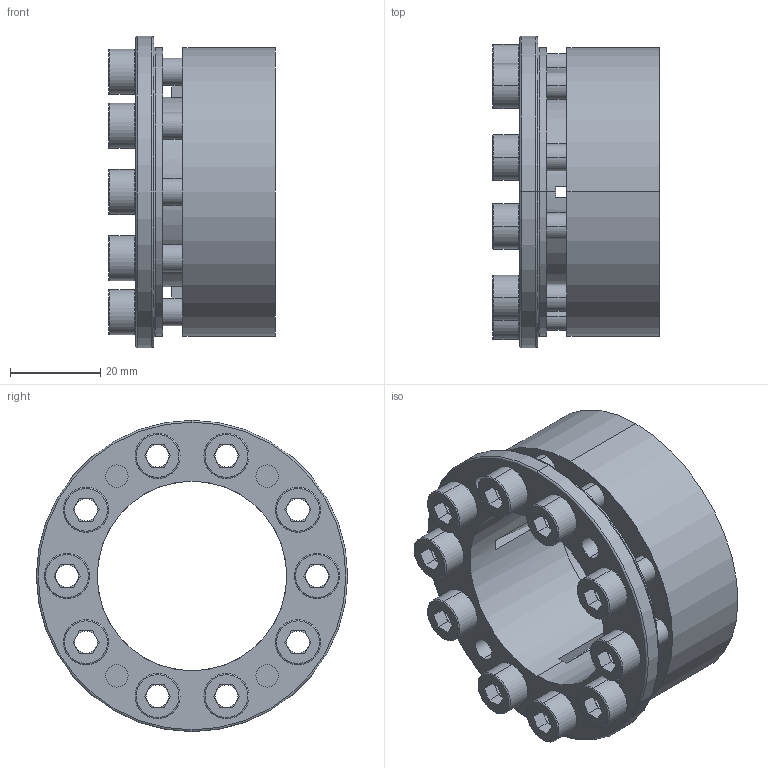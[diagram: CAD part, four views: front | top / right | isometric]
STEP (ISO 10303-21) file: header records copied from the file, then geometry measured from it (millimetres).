
FILE_DESCRIPTION (( 'STEP AP203' ), '1' );
FILE_NAME ('SAPL-A-42-64.STEP', '2018-04-24T09:16:24', ( '' ), ( '' ), 'SwSTEP 2.0', 'SolidWorks 2015', '' );
FILE_SCHEMA (( 'CONFIG_CONTROL_DESIGN' ));
Length unit declared in the file: millimetre
Products named in the file (1): SAPL-A-42-64
Bounding box: 37 x 69 x 69 mm (x, y, z)
Surface area: 29845 mm2 (no closed solid volume)
Topology: 0 solids, 22 shells, 297 faces, 772 edges, 476 vertices
Faces by surface type: plane 133, cylinder 116, torus 46, cone 2
Entity records: 9240 total; most frequent: DIRECTION 1742, CARTESIAN_POINT 1606, ORIENTED_EDGE 1394, EDGE_CURVE 772, AXIS2_PLACEMENT_3D 680, VERTEX_POINT 476, VECTOR 382, LINE 382
